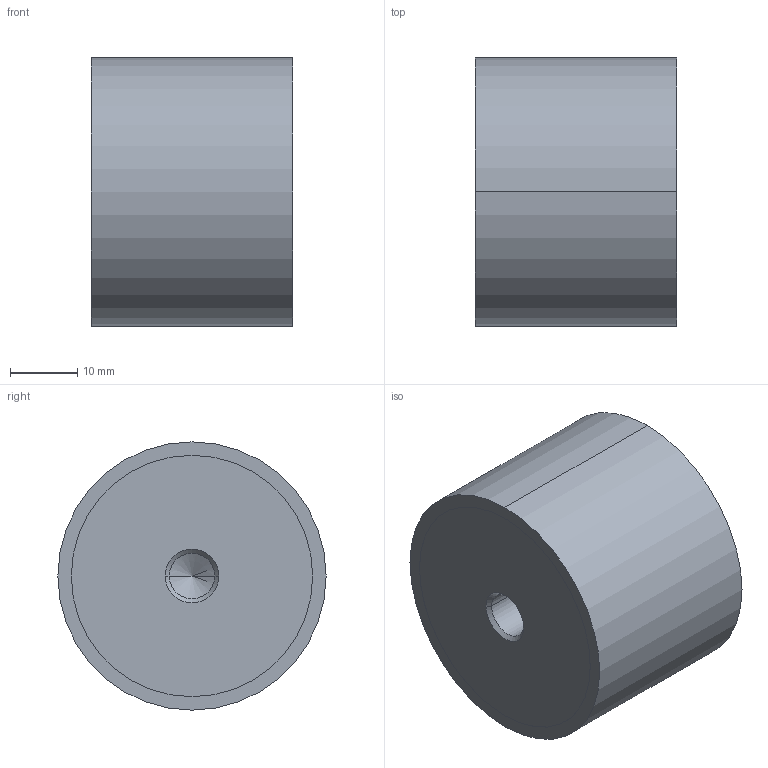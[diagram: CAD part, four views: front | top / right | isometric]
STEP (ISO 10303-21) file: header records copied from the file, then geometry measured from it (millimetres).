
FILE_DESCRIPTION (( 'STEP AP214' ), '1' );
FILE_NAME ('351-40-30-M8-EE-55.step', '2025-07-23T09:48:05', ( '' ), ( '' ), 'SwSTEP 2.0', 'SolidWorks 2022', '' );
FILE_SCHEMA (( 'AUTOMOTIVE_DESIGN' ));
Length unit declared in the file: millimetre
Products named in the file (1): 351-40-30-M8-EE-55
Bounding box: 30 x 40 x 40 mm (x, y, z)
Volume: 36972.4 mm3; surface area: 6666.1 mm2
Topology: 1 solids, 1 shells, 28 faces, 58 edges, 34 vertices
Faces by surface type: cylinder 14, cone 8, plane 6
Entity records: 844 total; most frequent: DIRECTION 144, CARTESIAN_POINT 117, ORIENTED_EDGE 108, AXIS2_PLACEMENT_3D 61, EDGE_CURVE 54, VERTEX_POINT 34, EDGE_LOOP 34, CIRCLE 32
